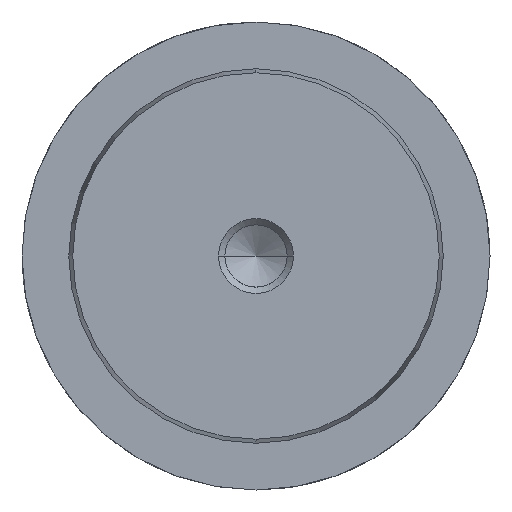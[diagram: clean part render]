
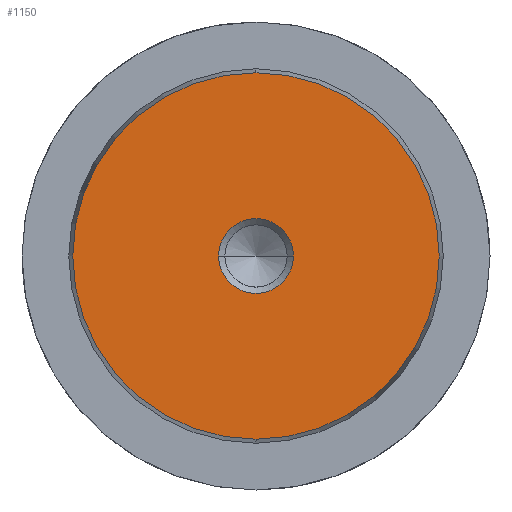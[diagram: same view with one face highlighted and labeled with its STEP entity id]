
A CAD part, left-side view. The second image highlights one B-rep face of the part: STEP entity #1150.
In plain terms, the highlighted planar face has unit normal (-1, 0, 0).
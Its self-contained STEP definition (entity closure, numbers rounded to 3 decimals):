
#1064=CARTESIAN_POINT('Vertex',(0.,0.,-19.578)) ;
#1067=CARTESIAN_POINT('Axis2P3D Location',(0.,0.,0.)) ;
#1071=CARTESIAN_POINT('Vertex',(0.,19.578,0.)) ;
#1074=CARTESIAN_POINT('Axis2P3D Location',(0.,0.,0.)) ;
#1078=CARTESIAN_POINT('Vertex',(0.,0.,19.578)) ;
#1100=CARTESIAN_POINT('Axis2P3D Location',(0.,0.,0.)) ;
#1104=CARTESIAN_POINT('Vertex',(0.,-19.578,0.)) ;
#1107=CARTESIAN_POINT('Axis2P3D Location',(0.,0.,0.)) ;
#1121=CARTESIAN_POINT('Axis2P3D Location',(0.,0.,0.)) ;
#1132=CARTESIAN_POINT('Axis2P3D Location',(0.,0.,0.)) ;
#1136=CARTESIAN_POINT('Vertex',(0.,4.,0.)) ;
#1138=CARTESIAN_POINT('Vertex',(0.,-4.,0.)) ;
#1141=CARTESIAN_POINT('Axis2P3D Location',(0.,0.,0.)) ;
#1068=DIRECTION('Axis2P3D Direction',(1.,0.,-0.)) ;
#1075=DIRECTION('Axis2P3D Direction',(1.,0.,-0.)) ;
#1101=DIRECTION('Axis2P3D Direction',(1.,0.,-0.)) ;
#1108=DIRECTION('Axis2P3D Direction',(1.,0.,-0.)) ;
#1122=DIRECTION('Axis2P3D Direction',(1.,0.,-0.)) ;
#1123=DIRECTION('Axis2P3D XDirection',(-0.,0.,-1.)) ;
#1133=DIRECTION('Axis2P3D Direction',(1.,0.,-0.)) ;
#1142=DIRECTION('Axis2P3D Direction',(1.,0.,-0.)) ;
#1069=AXIS2_PLACEMENT_3D('Circle Axis2P3D',#1067,#1068,$) ;
#1076=AXIS2_PLACEMENT_3D('Circle Axis2P3D',#1074,#1075,$) ;
#1102=AXIS2_PLACEMENT_3D('Circle Axis2P3D',#1100,#1101,$) ;
#1109=AXIS2_PLACEMENT_3D('Circle Axis2P3D',#1107,#1108,$) ;
#1124=AXIS2_PLACEMENT_3D('Plane Axis2P3D',#1121,#1122,#1123) ;
#1134=AXIS2_PLACEMENT_3D('Circle Axis2P3D',#1132,#1133,$) ;
#1143=AXIS2_PLACEMENT_3D('Circle Axis2P3D',#1141,#1142,$) ;
#1127=ORIENTED_EDGE('',*,*,#1073,.F.) ;
#1128=ORIENTED_EDGE('',*,*,#1111,.F.) ;
#1129=ORIENTED_EDGE('',*,*,#1106,.F.) ;
#1130=ORIENTED_EDGE('',*,*,#1080,.F.) ;
#1147=ORIENTED_EDGE('',*,*,#1140,.T.) ;
#1148=ORIENTED_EDGE('',*,*,#1145,.T.) ;
#1149=FACE_BOUND('',#1146,.T.) ;
#1150=ADVANCED_FACE('718-40x224',(#1131,#1149),#1125,.F.) ;
#1070=CIRCLE('generated circle',#1069,19.578) ;
#1077=CIRCLE('generated circle',#1076,19.578) ;
#1103=CIRCLE('generated circle',#1102,19.578) ;
#1110=CIRCLE('generated circle',#1109,19.578) ;
#1135=CIRCLE('generated circle',#1134,4.) ;
#1144=CIRCLE('generated circle',#1143,4.) ;
#1073=EDGE_CURVE('',#1065,#1072,#1070,.T.) ;
#1080=EDGE_CURVE('',#1072,#1079,#1077,.T.) ;
#1106=EDGE_CURVE('',#1079,#1105,#1103,.T.) ;
#1111=EDGE_CURVE('',#1105,#1065,#1110,.T.) ;
#1140=EDGE_CURVE('',#1137,#1139,#1135,.T.) ;
#1145=EDGE_CURVE('',#1139,#1137,#1144,.T.) ;
#1126=EDGE_LOOP('',(#1127,#1128,#1129,#1130)) ;
#1146=EDGE_LOOP('',(#1147,#1148)) ;
#1131=FACE_OUTER_BOUND('',#1126,.T.) ;
#1125=PLANE('Plane',#1124) ;
#1065=VERTEX_POINT('',#1064) ;
#1072=VERTEX_POINT('',#1071) ;
#1079=VERTEX_POINT('',#1078) ;
#1105=VERTEX_POINT('',#1104) ;
#1137=VERTEX_POINT('',#1136) ;
#1139=VERTEX_POINT('',#1138) ;
